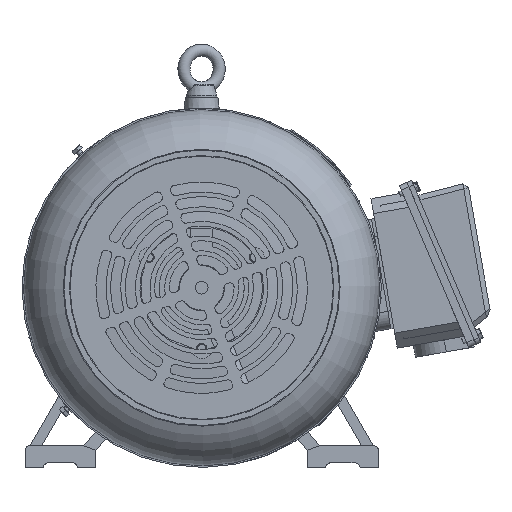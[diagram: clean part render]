
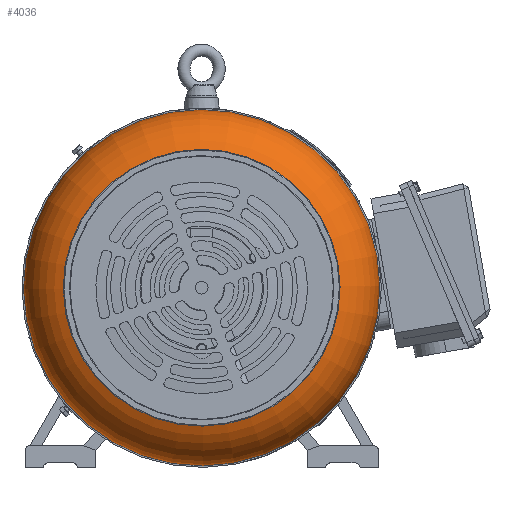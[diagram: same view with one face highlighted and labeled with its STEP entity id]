
A CAD part, front view. The second image highlights one B-rep face of the part: STEP entity #4036.
In plain terms, the highlighted toroidal (fillet/blend) face has major radius 116 mm and minor radius 60 mm.
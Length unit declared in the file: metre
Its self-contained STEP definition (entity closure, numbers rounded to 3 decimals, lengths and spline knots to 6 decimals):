
#4036=ADVANCED_FACE('',(#7873,#7874),#7875,.T.);
#7873=FACE_OUTER_BOUND('',#14540,.T.);
#7874=FACE_OUTER_BOUND('',#14541,.T.);
#7875=TOROIDAL_SURFACE('',#14542,0.116,0.06);
#14540=EDGE_LOOP('',(#27550));
#14541=EDGE_LOOP('',(#27551));
#14542=AXIS2_PLACEMENT_3D('',#27552,#27553,#27554);
#27550=ORIENTED_EDGE('',*,*,#34094,.T.);
#27551=ORIENTED_EDGE('',*,*,#34393,.F.);
#27552=CARTESIAN_POINT('',(0.,-0.028758,0.));
#27553=DIRECTION('',(0.0,-1.0,0.));
#27554=DIRECTION('',(0.0,0.,-1.0));
#34094=EDGE_CURVE('',#41351,#41351,#41352,.T.);
#34393=EDGE_CURVE('',#41933,#41933,#41934,.T.);
#41351=VERTEX_POINT('',#62156);
#41352=CIRCLE('',#62157,0.136735);
#41933=VERTEX_POINT('',#63262);
#41934=CIRCLE('',#63263,0.176);
#62156=CARTESIAN_POINT('',(0.136735,0.027545,0.));
#62157=AXIS2_PLACEMENT_3D('',#70257,#70258,#70259);
#63262=CARTESIAN_POINT('',(0.0,-0.028758,-0.176));
#63263=AXIS2_PLACEMENT_3D('',#70964,#70965,#70966);
#70257=CARTESIAN_POINT('',(0.,0.027545,0.));
#70258=DIRECTION('',(0.,-1.0,0.));
#70259=DIRECTION('',(1.0,0.,0.0));
#70964=CARTESIAN_POINT('',(0.0,-0.028758,0.));
#70965=DIRECTION('',(0.0,-1.0,0.));
#70966=DIRECTION('',(0.0,0.,-1.0));
